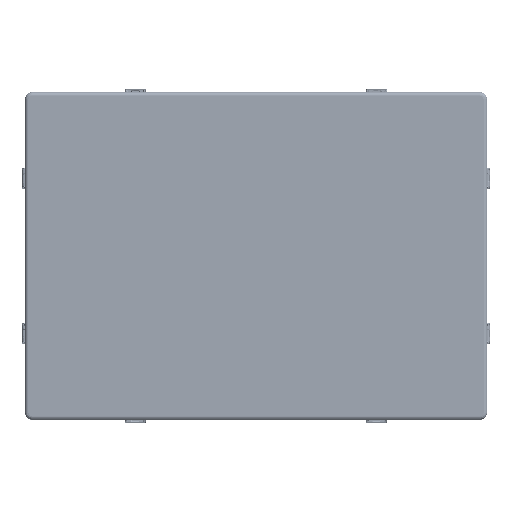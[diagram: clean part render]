
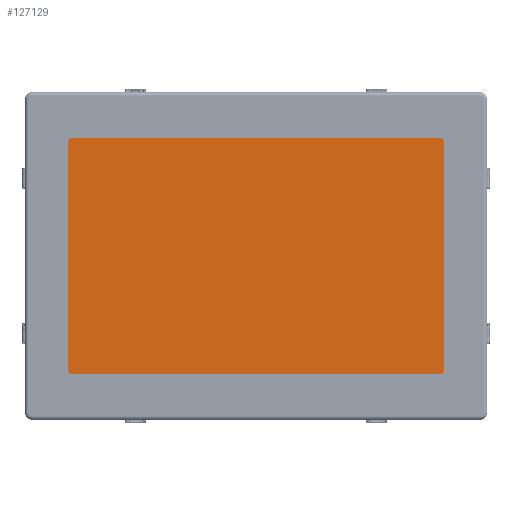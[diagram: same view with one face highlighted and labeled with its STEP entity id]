
A CAD part, front view. The second image highlights one B-rep face of the part: STEP entity #127129.
In plain terms, the highlighted planar face has unit normal (0, -1, 0).
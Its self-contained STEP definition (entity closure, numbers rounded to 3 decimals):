
#6772=PLANE('',#138740);
#11808=FACE_OUTER_BOUND('',#21926,.T.);
#21926=EDGE_LOOP('',(#99749,#99750,#99751,#99752,#99753,#99754,#99755,#99756));
#32107=CIRCLE('',#138667,1.7);
#32108=CIRCLE('',#138670,1.7);
#32109=CIRCLE('',#138673,1.7);
#32110=CIRCLE('',#138676,1.7);
#38869=LINE('',#244636,#46244);
#38872=LINE('',#244644,#46247);
#38875=LINE('',#244652,#46250);
#38878=LINE('',#244659,#46253);
#46244=VECTOR('',#165777,10.);
#46247=VECTOR('',#165786,10.);
#46250=VECTOR('',#165795,10.);
#46253=VECTOR('',#165804,10.);
#56117=VERTEX_POINT('',#244629);
#56118=VERTEX_POINT('',#244631);
#56119=VERTEX_POINT('',#244635);
#56120=VERTEX_POINT('',#244639);
#56121=VERTEX_POINT('',#244643);
#56122=VERTEX_POINT('',#244647);
#56123=VERTEX_POINT('',#244651);
#56124=VERTEX_POINT('',#244655);
#71156=EDGE_CURVE('',#56118,#56117,#32107,.T.);
#71158=EDGE_CURVE('',#56119,#56118,#38869,.T.);
#71160=EDGE_CURVE('',#56120,#56119,#32108,.T.);
#71162=EDGE_CURVE('',#56121,#56120,#38872,.T.);
#71164=EDGE_CURVE('',#56122,#56121,#32109,.T.);
#71166=EDGE_CURVE('',#56123,#56122,#38875,.T.);
#71168=EDGE_CURVE('',#56124,#56123,#32110,.T.);
#71170=EDGE_CURVE('',#56117,#56124,#38878,.T.);
#99749=ORIENTED_EDGE('',*,*,#71156,.T.);
#99750=ORIENTED_EDGE('',*,*,#71170,.T.);
#99751=ORIENTED_EDGE('',*,*,#71168,.T.);
#99752=ORIENTED_EDGE('',*,*,#71166,.T.);
#99753=ORIENTED_EDGE('',*,*,#71164,.T.);
#99754=ORIENTED_EDGE('',*,*,#71162,.T.);
#99755=ORIENTED_EDGE('',*,*,#71160,.T.);
#99756=ORIENTED_EDGE('',*,*,#71158,.T.);
#127129=ADVANCED_FACE('',(#11808),#6772,.T.);
#138667=AXIS2_PLACEMENT_3D('',#244632,#165772,#165773);
#138670=AXIS2_PLACEMENT_3D('',#244640,#165781,#165782);
#138673=AXIS2_PLACEMENT_3D('',#244648,#165790,#165791);
#138676=AXIS2_PLACEMENT_3D('',#244656,#165799,#165800);
#138740=AXIS2_PLACEMENT_3D('',#244885,#166019,#166020);
#165772=DIRECTION('center_axis',(0.,-1.,0.));
#165773=DIRECTION('ref_axis',(1.,0.,0.));
#165777=DIRECTION('',(-1.,0.,0.));
#165781=DIRECTION('center_axis',(0.,-1.,0.));
#165782=DIRECTION('ref_axis',(1.,0.,0.));
#165786=DIRECTION('',(0.,0.,1.));
#165790=DIRECTION('center_axis',(0.,-1.,0.));
#165791=DIRECTION('ref_axis',(1.,0.,0.));
#165795=DIRECTION('',(1.,0.,0.));
#165799=DIRECTION('center_axis',(0.,-1.,0.));
#165800=DIRECTION('ref_axis',(1.,0.,0.));
#165804=DIRECTION('',(0.,0.,-1.));
#166019=DIRECTION('center_axis',(0.,-1.,0.));
#166020=DIRECTION('ref_axis',(1.,0.,0.));
#244629=CARTESIAN_POINT('',(-109.,0.,66.55));
#244631=CARTESIAN_POINT('',(-107.3,0.,68.25));
#244632=CARTESIAN_POINT('Origin',(-107.3,0.,66.55));
#244635=CARTESIAN_POINT('',(107.3,0.,68.25));
#244636=CARTESIAN_POINT('',(53.65,0.,68.25));
#244639=CARTESIAN_POINT('',(109.,0.,66.55));
#244640=CARTESIAN_POINT('Origin',(107.3,0.,66.55));
#244643=CARTESIAN_POINT('',(109.,0.,-66.55));
#244644=CARTESIAN_POINT('',(109.,0.,-33.275));
#244647=CARTESIAN_POINT('',(107.3,0.,-68.25));
#244648=CARTESIAN_POINT('Origin',(107.3,0.,-66.55));
#244651=CARTESIAN_POINT('',(-107.3,0.,-68.25));
#244652=CARTESIAN_POINT('',(-53.65,0.,-68.25));
#244655=CARTESIAN_POINT('',(-109.,0.,-66.55));
#244656=CARTESIAN_POINT('Origin',(-107.3,0.,-66.55));
#244659=CARTESIAN_POINT('',(-109.,0.,33.275));
#244885=CARTESIAN_POINT('Origin',(0.,0.,0.));
